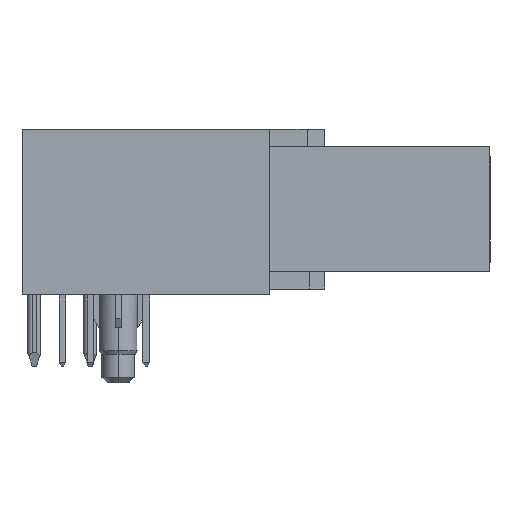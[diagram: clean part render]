
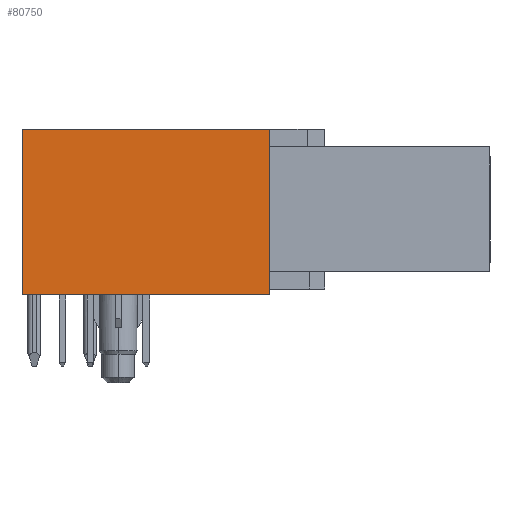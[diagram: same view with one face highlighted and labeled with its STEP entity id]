
A CAD part, left-side view. The second image highlights one B-rep face of the part: STEP entity #80750.
In plain terms, the highlighted planar face has unit normal (-1, 0, 0).
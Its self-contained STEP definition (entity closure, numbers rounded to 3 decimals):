
#757 = VERTEX_POINT ( 'NONE', #7502 ) ;
#763 = VERTEX_POINT ( 'NONE', #7508 ) ;
#765 = VERTEX_POINT ( 'NONE', #7509 ) ;
#1139 = VERTEX_POINT ( 'NONE', #8193 ) ;
#3780 = VECTOR ( 'NONE', #45661, 1000. ) ;
#3903 = ORIENTED_EDGE ( 'NONE', *, *, #81226, .T. ) ;
#3905 = ORIENTED_EDGE ( 'NONE', *, *, #82673, .F. ) ;
#3907 = ORIENTED_EDGE ( 'NONE', *, *, #8607, .F. ) ;
#3909 = ORIENTED_EDGE ( 'NONE', *, *, #81225, .T. ) ;
#6873 = EDGE_LOOP ( 'NONE', ( #3909, #3907, #3905, #3903 ) ) ;
#7502 = CARTESIAN_POINT ( 'NONE',  ( -20.68, 0., -6.7 ) ) ;
#7508 = CARTESIAN_POINT ( 'NONE',  ( -20.68, 11.24, -6.7 ) ) ;
#7509 = CARTESIAN_POINT ( 'NONE',  ( -20.68, 11.24, 0.8 ) ) ;
#8193 = CARTESIAN_POINT ( 'NONE',  ( -20.68, 0., 0.8 ) ) ;
#8607 = EDGE_CURVE ( 'NONE', #763, #765, #70970, .T. ) ;
#12590 = LINE ( 'NONE', #12604, #63182 ) ;
#12600 = LINE ( 'NONE', #12602, #63185 ) ;
#12602 = CARTESIAN_POINT ( 'NONE',  ( -20.68, 0., 0.8 ) ) ;
#12603 = DIRECTION ( 'NONE',  ( 0., 1., 0. ) ) ;
#12604 = CARTESIAN_POINT ( 'NONE',  ( -20.68, 0., 0.8 ) ) ;
#12606 = DIRECTION ( 'NONE',  ( 0., 0., 1. ) ) ;
#26543 = PLANE ( 'NONE',  #67465 ) ;
#26574 = FACE_OUTER_BOUND ( 'NONE', #6873, .T. ) ;
#26601 = CARTESIAN_POINT ( 'NONE',  ( -20.68, 11.24, 0.8 ) ) ;
#26603 = DIRECTION ( 'NONE',  ( 1., 0., 0. ) ) ;
#26605 = DIRECTION ( 'NONE',  ( 0., 0., -1. ) ) ;
#45654 = LINE ( 'NONE', #45660, #3780 ) ;
#45660 = CARTESIAN_POINT ( 'NONE',  ( -20.68, 11.24, -6.7 ) ) ;
#45661 = DIRECTION ( 'NONE',  ( 0., 1., 0. ) ) ;
#63182 = VECTOR ( 'NONE', #12606, 1000. ) ;
#63185 = VECTOR ( 'NONE', #12603, 1000. ) ;
#67465 = AXIS2_PLACEMENT_3D ( 'NONE', #26601, #26603, #26605 ) ;
#70970 = LINE ( 'NONE', #70974, #88442 ) ;
#70974 = CARTESIAN_POINT ( 'NONE',  ( -20.68, 11.24, 0.8 ) ) ;
#70977 = DIRECTION ( 'NONE',  ( 0., 0., 1. ) ) ;
#80750 = ADVANCED_FACE ( 'NONE', ( #26574 ), #26543, .F. ) ;
#81225 = EDGE_CURVE ( 'NONE', #1139, #765, #12600, .T. ) ;
#81226 = EDGE_CURVE ( 'NONE', #757, #1139, #12590, .T. ) ;
#82673 = EDGE_CURVE ( 'NONE', #757, #763, #45654, .T. ) ;
#88442 = VECTOR ( 'NONE', #70977, 1000. ) ;
